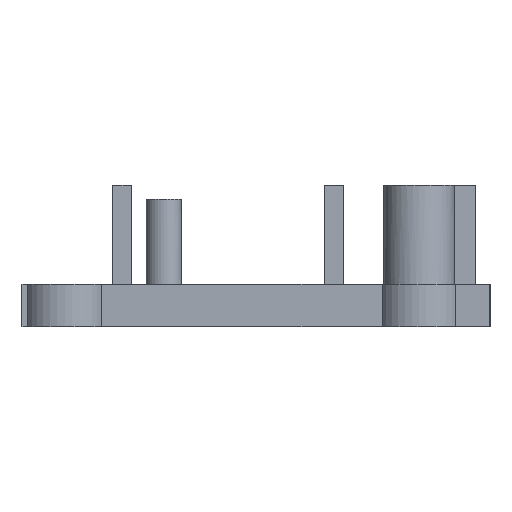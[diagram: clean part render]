
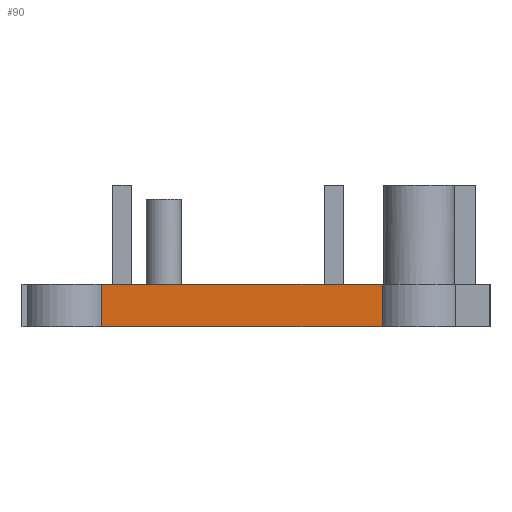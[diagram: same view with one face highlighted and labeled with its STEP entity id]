
A CAD part, left-side view. The second image highlights one B-rep face of the part: STEP entity #90.
In plain terms, the highlighted planar face has unit normal (-1, 0, 0).
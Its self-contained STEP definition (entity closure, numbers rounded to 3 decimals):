
#21 = EDGE_CURVE('',#22,#24,#26,.T.);
#22 = VERTEX_POINT('',#23);
#23 = CARTESIAN_POINT('',(20.,65.402,3.));
#24 = VERTEX_POINT('',#25);
#25 = CARTESIAN_POINT('',(20.,65.402,6.));
#26 = LINE('',#27,#28);
#27 = CARTESIAN_POINT('',(20.,65.402,3.));
#28 = VECTOR('',#29,1.);
#29 = DIRECTION('',(0.,0.,1.));
#90 = ADVANCED_FACE('',(#91),#116,.F.);
#91 = FACE_BOUND('',#92,.T.);
#92 = EDGE_LOOP('',(#93,#101,#102,#110));
#93 = ORIENTED_EDGE('',*,*,#94,.T.);
#94 = EDGE_CURVE('',#95,#24,#97,.T.);
#95 = VERTEX_POINT('',#96);
#96 = CARTESIAN_POINT('',(20.,45.598,6.));
#97 = LINE('',#98,#99);
#98 = CARTESIAN_POINT('',(20.,38.,6.));
#99 = VECTOR('',#100,1.);
#100 = DIRECTION('',(-0.,1.,0.));
#101 = ORIENTED_EDGE('',*,*,#21,.F.);
#102 = ORIENTED_EDGE('',*,*,#103,.F.);
#103 = EDGE_CURVE('',#104,#22,#106,.T.);
#104 = VERTEX_POINT('',#105);
#105 = CARTESIAN_POINT('',(20.,45.598,3.));
#106 = LINE('',#107,#108);
#107 = CARTESIAN_POINT('',(20.,38.,3.));
#108 = VECTOR('',#109,1.);
#109 = DIRECTION('',(-0.,1.,0.));
#110 = ORIENTED_EDGE('',*,*,#111,.T.);
#111 = EDGE_CURVE('',#104,#95,#112,.T.);
#112 = LINE('',#113,#114);
#113 = CARTESIAN_POINT('',(20.,45.598,3.));
#114 = VECTOR('',#115,1.);
#115 = DIRECTION('',(0.,0.,1.));
#116 = PLANE('',#117);
#117 = AXIS2_PLACEMENT_3D('',#118,#119,#120);
#118 = CARTESIAN_POINT('',(20.,38.,3.));
#119 = DIRECTION('',(1.,0.,-0.));
#120 = DIRECTION('',(0.,0.,1.));
